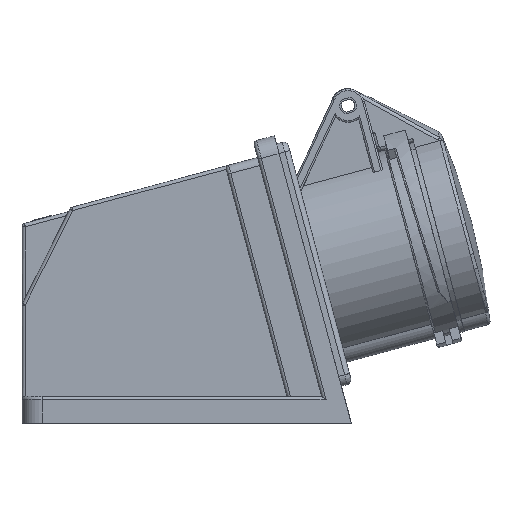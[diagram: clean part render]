
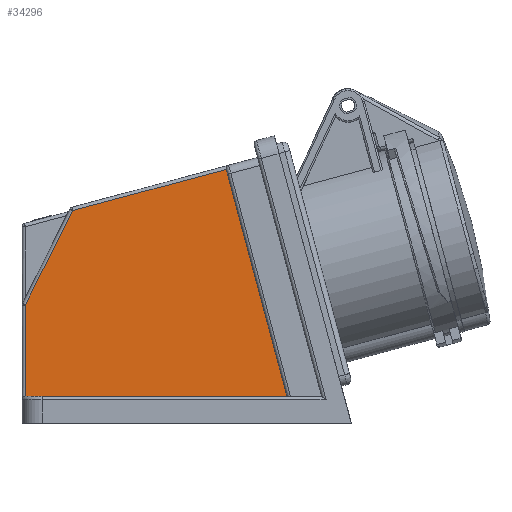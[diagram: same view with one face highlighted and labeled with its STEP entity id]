
A CAD part, left-side view. The second image highlights one B-rep face of the part: STEP entity #34296.
In plain terms, the highlighted planar face has unit normal (-1, 0, 0).
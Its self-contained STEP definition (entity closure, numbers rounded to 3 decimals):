
#29172 = VERTEX_POINT('',#29173);
#29173 = CARTESIAN_POINT('',(-28.5,-30.024,8.));
#29179 = EDGE_CURVE('',#29172,#29180,#29182,.T.);
#29180 = VERTEX_POINT('',#29181);
#29181 = CARTESIAN_POINT('',(-28.5,48.25,8.));
#29182 = LINE('',#29183,#29184);
#29183 = CARTESIAN_POINT('',(-28.5,-30.024,8.));
#29184 = VECTOR('',#29185,1.);
#29185 = DIRECTION('',(0.,1.,0.));
#29371 = EDGE_CURVE('',#29372,#29172,#29374,.T.);
#29372 = VERTEX_POINT('',#29373);
#29373 = CARTESIAN_POINT('',(-28.5,-11.83,75.901));
#29374 = LINE('',#29375,#29376);
#29375 = CARTESIAN_POINT('',(-28.5,-11.83,75.901));
#29376 = VECTOR('',#29377,1.);
#29377 = DIRECTION('',(0.,-0.259,-0.966));
#29872 = VERTEX_POINT('',#29873);
#29873 = CARTESIAN_POINT('',(-28.5,34.069,63.603));
#29895 = EDGE_CURVE('',#29372,#29872,#29896,.T.);
#29896 = LINE('',#29897,#29898);
#29897 = CARTESIAN_POINT('',(-28.5,-11.83,75.901));
#29898 = VECTOR('',#29899,1.);
#29899 = DIRECTION('',(0.,0.966,-0.259));
#34222 = EDGE_CURVE('',#29872,#34223,#34225,.T.);
#34223 = VERTEX_POINT('',#34224);
#34224 = CARTESIAN_POINT('',(-28.5,48.25,35.333));
#34225 = LINE('',#34226,#34227);
#34226 = CARTESIAN_POINT('',(-28.5,34.069,63.603));
#34227 = VECTOR('',#34228,1.);
#34228 = DIRECTION('',(0.,0.448,-0.894));
#34284 = EDGE_CURVE('',#34223,#29180,#34285,.T.);
#34285 = LINE('',#34286,#34287);
#34286 = CARTESIAN_POINT('',(-28.5,48.25,35.333));
#34287 = VECTOR('',#34288,1.);
#34288 = DIRECTION('',(0.,0.,-1.));
#34296 = ADVANCED_FACE('',(#34297),#34304,.F.);
#34297 = FACE_BOUND('',#34298,.T.);
#34298 = EDGE_LOOP('',(#34299,#34300,#34301,#34302,#34303));
#34299 = ORIENTED_EDGE('',*,*,#29179,.F.);
#34300 = ORIENTED_EDGE('',*,*,#29371,.F.);
#34301 = ORIENTED_EDGE('',*,*,#29895,.T.);
#34302 = ORIENTED_EDGE('',*,*,#34222,.T.);
#34303 = ORIENTED_EDGE('',*,*,#34284,.T.);
#34304 = PLANE('',#34305);
#34305 = AXIS2_PLACEMENT_3D('',#34306,#34307,#34308);
#34306 = CARTESIAN_POINT('',(-28.5,0.,0.));
#34307 = DIRECTION('',(1.,0.,0.));
#34308 = DIRECTION('',(0.,-1.,0.));
